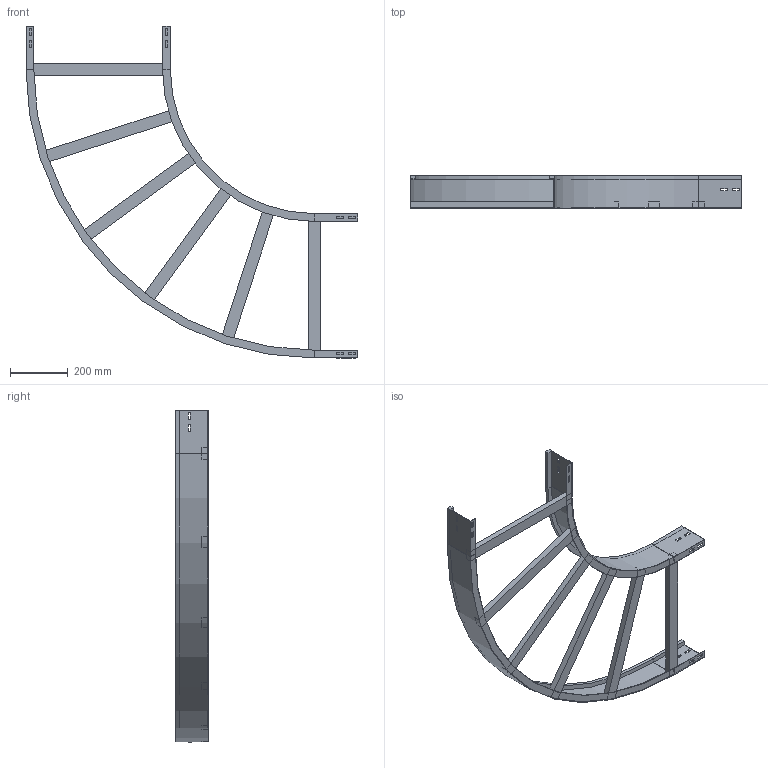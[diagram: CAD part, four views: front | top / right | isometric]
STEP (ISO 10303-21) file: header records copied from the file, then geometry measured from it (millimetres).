
FILE_DESCRIPTION (( 'STEP AP214' ), '1' );
FILE_NAME ('10B5J500.step', '2025-02-21T15:24:08', ( '' ), ( '' ), 'SwSTEP 2.0', 'SolidWorks 2023', '' );
FILE_SCHEMA (( 'AUTOMOTIVE_DESIGN' ));
Length unit declared in the file: millimetre
Products named in the file (4): TRAVERSINO_500; A2_LONGH.INTERNO 90°_H112.5_R500; A2_LONGH.ESTERNO 90°_H112.5_R500+500; 10B5J500
Assembly tree (8 placements, depth 2):
  10B5J500
    A2_LONGH.INTERNO 90°_H112.5_R500
    A2_LONGH.ESTERNO 90°_H112.5_R500+500
    TRAVERSINO_500  x6
Bounding box: 1150 x 112.5 x 1150 mm (x, y, z)
Volume: 3786174.8 mm3; surface area: 1287988.5 mm2
Topology: 8 solids, 8 shells, 152 faces, 376 edges, 240 vertices
Faces by surface type: plane 144, cylinder 8
Entity records: 3845 total; most frequent: CARTESIAN_POINT 649, ORIENTED_EDGE 632, DIRECTION 598, EDGE_CURVE 316, LINE 300, VECTOR 300, VERTEX_POINT 200, EDGE_LOOP 154
